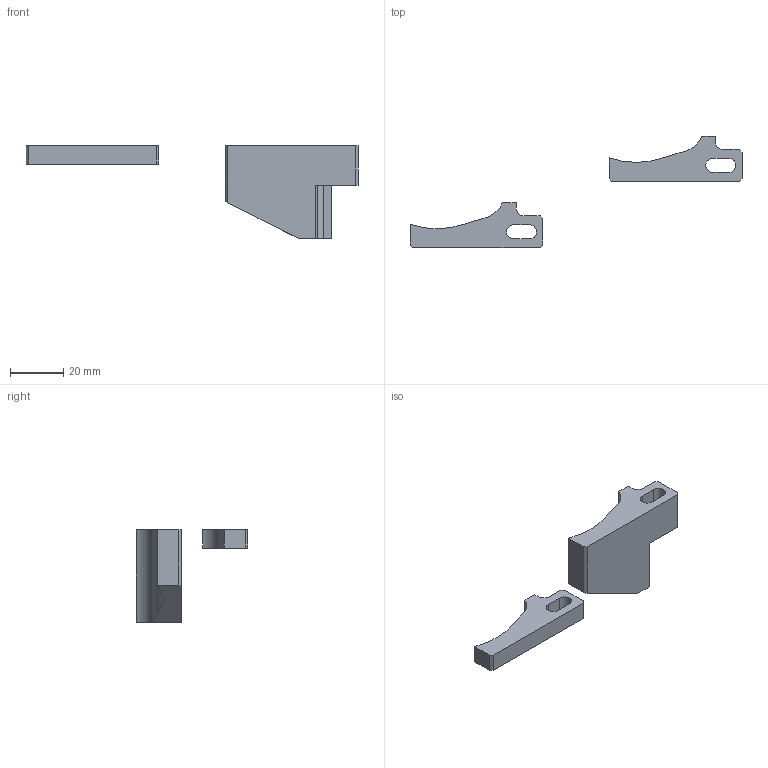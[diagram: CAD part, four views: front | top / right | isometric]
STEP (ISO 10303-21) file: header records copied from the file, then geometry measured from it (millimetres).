
FILE_DESCRIPTION(('STEP AP214'),'1');
FILE_NAME('tmp0.stp','2025-08-29T11:55:51',(' '),(' '),'Spatial InterOp 3D',' ',' ');
FILE_SCHEMA(('AUTOMOTIVE_DESIGN { 1 0 10303 214 1 1 1 1 }'));
Length unit declared in the file: millimetre
Products named in the file (1): Náčrt7
Bounding box: 125 x 42 x 35 mm (x, y, z)
Volume: 15833.1 mm3; surface area: 6981.6 mm2
Topology: 2 solids, 2 shells, 46 faces, 126 edges, 85 vertices
Faces by surface type: plane 32, cylinder 14
Entity records: 1519 total; most frequent: CARTESIAN_POINT 260, DIRECTION 252, ORIENTED_EDGE 252, EDGE_CURVE 126, LINE 98, VECTOR 98, VERTEX_POINT 84, AXIS2_PLACEMENT_3D 77
